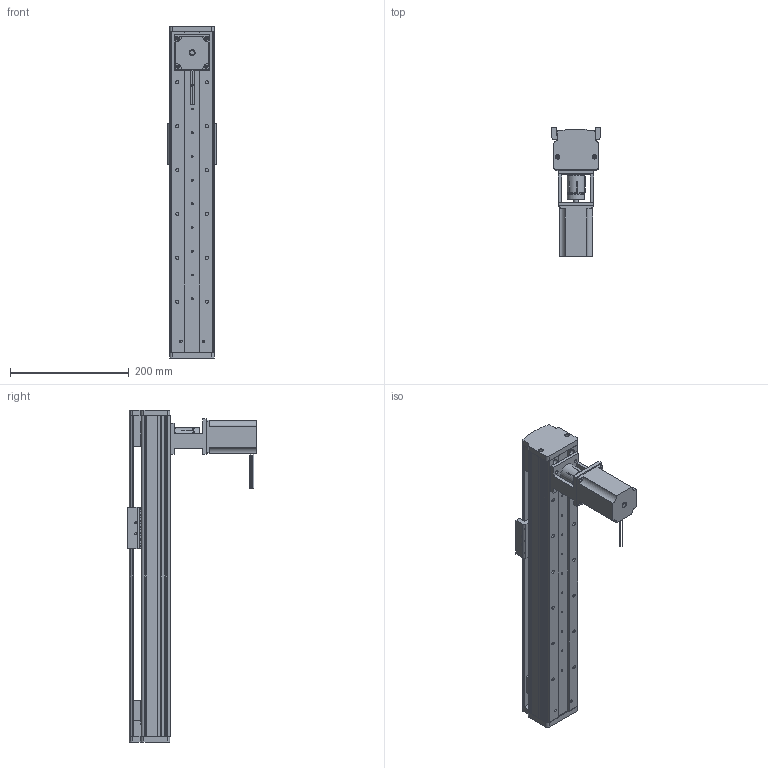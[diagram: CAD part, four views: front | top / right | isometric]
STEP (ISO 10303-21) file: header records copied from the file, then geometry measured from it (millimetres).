
FILE_DESCRIPTION (( 'STEP AP214' ), '1' );
FILE_NAME ('CF75-D-300-FWD.STEP', '2016-07-18T05:13:14', ( 'Sky123.Org' ), ( 'Sky123.Org' ), 'SwSTEP 2.0', 'SolidWorks 2015', '' );
FILE_SCHEMA (( 'AUTOMOTIVE_DESIGN' ));
Length unit declared in the file: millimetre
Products named in the file (17): CF75-D-300-FWD; CF75同步带上下安装滑动板; MGW12賑輸; 57祭輛萇儂; MGW12H絳寢-俴最300; 翋雄粣傍杶; 30-42薊粣ん; deep groove ball bearings gb-1_Rolling bearings 628 GB 276-94; 75肮祭湍翋雄粣; 30-42薊粣ん杶; 75肮祭湍植雄粣2; 75侧板（2016.03.24改进）; 5M 15喘詢27; 75裔啣-p300; 植雄耜; CF75郔陔翋雄釱; CF75铝型材 - 电机左侧－P300
Assembly tree (22 placements, depth 2):
  CF75-D-300-FWD
    CF75铝型材 - 电机左侧－P300
    CF75郔陔翋雄釱
    植雄耜
    75裔啣-p300
    5M 15喘詢27  x2
    75侧板（2016.03.24改进）  x2
    30-42薊粣ん杶
    75肮祭湍翋雄粣
    deep groove ball bearings gb-1_Rolling bearings 628 GB 276-94  x4
    翋雄粣傍杶  x2
    57祭輛萇儂
    75肮祭湍植雄粣2
    30-42薊粣ん
    MGW12H絳寢-俴最300
    MGW12賑輸
    CF75同步带上下安装滑动板
Bounding box: 82 x 217.43 x 560 mm (x, y, z)
Volume: 1492674.6 mm3; surface area: 526872.8 mm2
Topology: 23 solids, 23 shells, 1292 faces, 4122 edges, 2739 vertices
Faces by surface type: cylinder 515, plane 492, torus 176, sphere 88, cone 21
Entity records: 37343 total; most frequent: CARTESIAN_POINT 7690, DIRECTION 5640, ORIENTED_EDGE 5586, EDGE_CURVE 2793, AXIS2_PLACEMENT_3D 2138, VERTEX_POINT 1844, VECTOR 1364, LINE 1364
